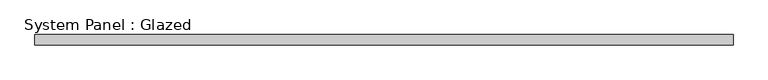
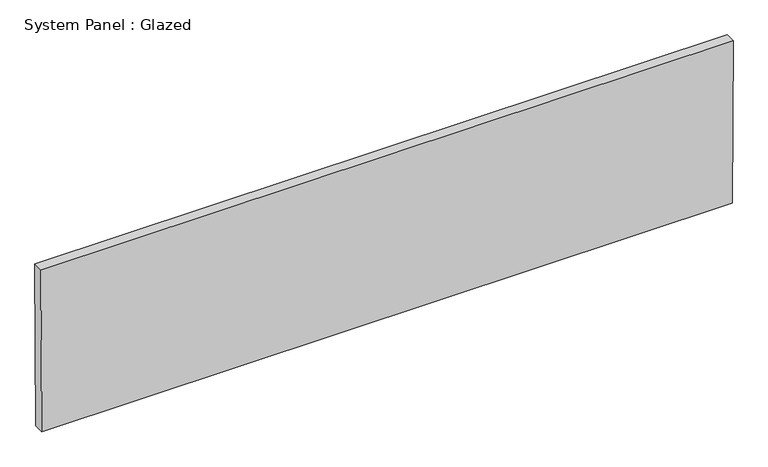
"""IFC4 building model written with IfcOpenShell, lengths in millimetres: plate geometry, System Panel : Glazed."""

from ifc_helpers import new_model, si_unit, frame, origin, place, context, project, spatial, polyline, outline, extrude, source, transform, mapped, element, save


def system_panel_glazed_68703ce9(model_context):
    return source(origin(), model_context, "Body", "SweptSolid", [
        extrude(outline(polyline([(0.0, -859.982993), (0.0, 859.982993), (427.6670978, 862.1045876), (427.6670978, -862.1045876), (0.0, -859.982993)])), frame((0.0, -44.45, 0.0), z_axis=(0.0, 1.0, 0.0), x_axis=(0.0, 0.0, 1.0)), (0.0, 0.0, 1.0), 25.4),
    ])


if __name__ == "__main__":
    model = new_model("IFC4")
    model_context = context("Model", 3, world=origin())
    ifc_project = project(units=[si_unit("LENGTHUNIT", "METRE", prefix="MILLI")], contexts=[model_context])
    site = spatial("IfcSite", under=ifc_project)
    building = spatial("IfcBuilding", under=site)
    placement = place(None, origin())
    system_panel_glazed_shape = system_panel_glazed_68703ce9(model_context)
    element("IfcPlate", 1, ObjectType="System Panel : Glazed", at=placement, inside=building, context=model_context, shape_type="MappedRepresentation", body=[
        mapped(system_panel_glazed_shape, transform((0.0, 0.0, 0.0), x_axis=(1.0, 0.0, 0.0), y_axis=(0.0, 1.0, 0.0), z_axis=(0.0, 0.0, 1.0))),
    ])
    save(model, "model.ifc")
